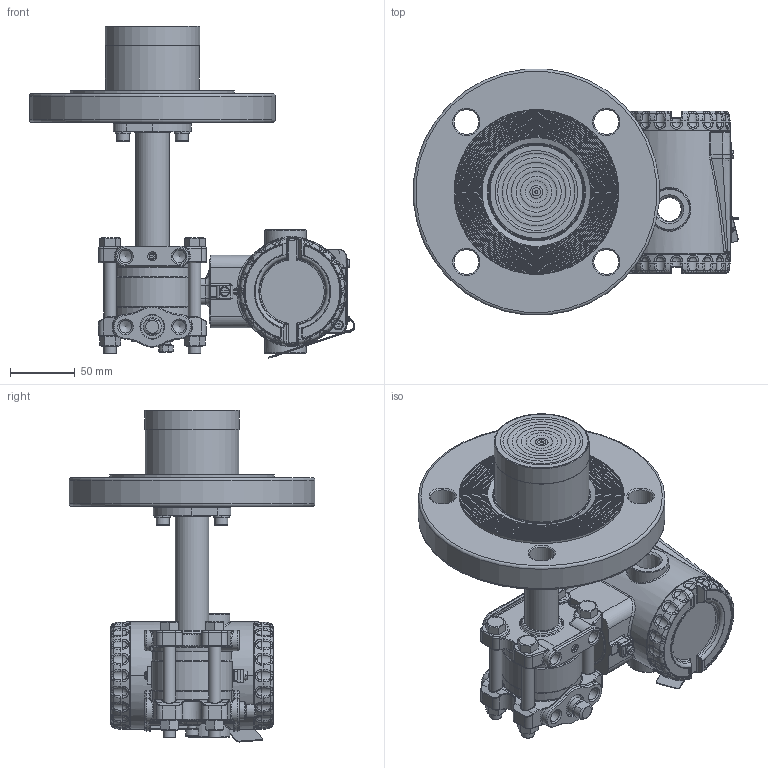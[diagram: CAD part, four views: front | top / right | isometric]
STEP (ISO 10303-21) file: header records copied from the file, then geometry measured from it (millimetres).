
FILE_DESCRIPTION(/* description */ (''),/* implementation_level */ '2;1');
FILE_NAME(/* name */ 'F:\Area\Desenvolvimento_2\Projects\Sensor\projetos\LD400-3d\dimensionais 3D clientes\LD400L\LD400L 3-150 RF ext 50 ref 1-4NPT purga acima.stp',/* time_stamp */ '2023-02-23T16:03:22-03:00',/* author */ ('inventor02'),/* organization */ (''),/* preprocessor_version */ 'ST-DEVELOPER v17',/* originating_system */ 'Autodesk Inventor 2019',/* authorisation */ '');
FILE_SCHEMA (('CONFIG_CONTROL_DESIGN'));
Products named in the file (41): LD30XL 3-150 RF ext 50 ref 1-4NPT purga acima; 204-0301-L-3 150 RF ext 50 purga acima; nivel fx3 com baixa diferencial 1-4NPT purga acima; involucro fx0-3 apos a usinagem final; flange diferencial std purga; 101-C-7484-01 flange selo nivel VR; 201-A-0504-tubo união teste 1; bujao 1-4NPT; Sangria; Porca 3-8 x 16 UNC; Paraf. 3-8 x 16 UNC; adaptação tubo x flanges 1-1-2 a 4pol; 101-B-0161-anel cortado do tubo - teste1; 101-B-0162-flange fixação tubo; ANSI B18.3.1M - M6x1 x 16; DIN 127 - A 6; flange 3 150 ext 50; 101-C-0111-14; 096-B-0199-14; 101-B-7701-02 ext 3-50; Carcaça 400 com tampas e plaqueta sem letras; 101-D-0845-05 carcaça LD400 sem letras; 101-B-3614-03-tampa 400 sem letras; Tampa visor 400 montada sem letras; 101-B-3612-05 tampa visor 400 sem letras; 101-A-6107; oring 2034; 00034775-0; WHW_250; DIN 915 - M6 x 10; Chapa aterramento externo; 201-A-1771-02 inserto terra recartilhado; AS 1969 - ST4,2; ISO 1207 - M4 x 8; ANSI B18.3.1M - M4x0,7 x 8; Subconjunto plaqueta 400; plaqueta 400 em branco; Parafuso da Plaqueta; Rebite da Plaqueta; 096-A-0169-03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
Assembly tree (50 placements, depth 4):
  LD30XL 3-150 RF ext 50 ref 1-4NPT purga acima
    204-0301-L-3 150 RF ext 50 purga acima
      nivel fx3 com baixa diferencial 1-4NPT purga acima
        involucro fx0-3 apos a usinagem final
        flange diferencial std purga
        101-C-7484-01 flange selo nivel VR
        201-A-0504-tubo união teste 1
        DIN 915 - M6 x 10
        bujao 1-4NPT
        Sangria
        Porca 3-8 x 16 UNC  x4
        Paraf. 3-8 x 16 UNC  x4
      adaptação tubo x flanges 1-1-2 a 4pol
        101-B-0161-anel cortado do tubo - teste1
        101-B-0162-flange fixação tubo
        ANSI B18.3.1M - M6x1 x 16  x2
        DIN 127 - A 6  x2
      flange 3 150 ext 50
        101-C-0111-14
        096-B-0199-14
        101-B-7701-02 ext 3-50
    Carcaça 400 com tampas e plaqueta sem letras
      101-D-0845-05 carcaça LD400 sem letras
      101-B-3614-03-tampa 400 sem letras
      Tampa visor 400 montada sem letras
        101-B-3612-05 tampa visor 400 sem letras
        101-A-6107
        oring 2034
        00034775-0
        WHW_250
      DIN 915 - M6 x 10
      Chapa aterramento externo
      201-A-1771-02 inserto terra recartilhado
      AS 1969 - ST4,2
      ISO 1207 - M4 x 8
      ANSI B18.3.1M - M4x0,7 x 8  x2
      Subconjunto plaqueta 400
        plaqueta 400 em branco
        Parafuso da Plaqueta
        Rebite da Plaqueta
        096-A-0169-03
        101-A-0502-01
Bounding box: 250.39 x 189.28 x 255.72 mm (x, y, z)
Volume: 1337667.3 mm3; surface area: 363353.7 mm2
Topology: 43 solids, 43 shells, 2796 faces, 6762 edges, 4065 vertices
Faces by surface type: plane 739, cylinder 664, bspline 605, torus 490, cone 222, sphere 76
Full cylindrical faces by diameter (mm): 2 x4, 2.1 x1, 2.2 x1, 2.459 x3, 2.5 x1, 2.7 x1, 2.8 x1, 3 x4, 3.242 x3, 3.5 x1, 3.571 x1, 4 x5, 4.3 x2, 4.4 x1, 4.917 x4, 5 x1, 5.5 x3, 6 x6, 6.1 x2, 6.2 x1, 6.647 x1, 7 x5, 7.6 x2, 7.798 x4, 8 x1, 9.525 x4, 9.728 x6, 10 x2, 10.5 x8, 10.719 x2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
Entity records: 99436 total; most frequent: CARTESIAN_POINT 37211, DIRECTION 12858, ORIENTED_EDGE 12764, EDGE_CURVE 6382, AXIS2_PLACEMENT_3D 5518, VERTEX_POINT 3871, CIRCLE 3210, EDGE_LOOP 2849
